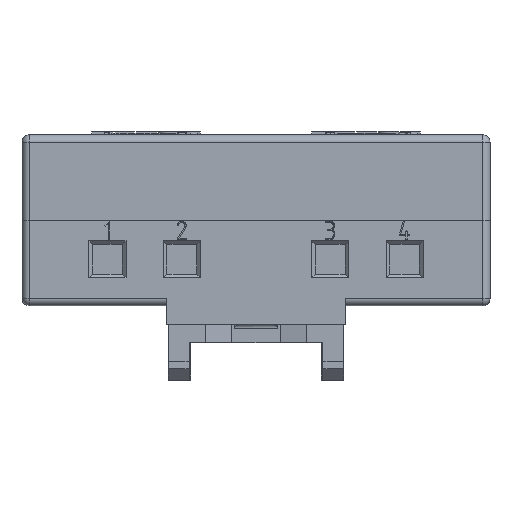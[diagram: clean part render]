
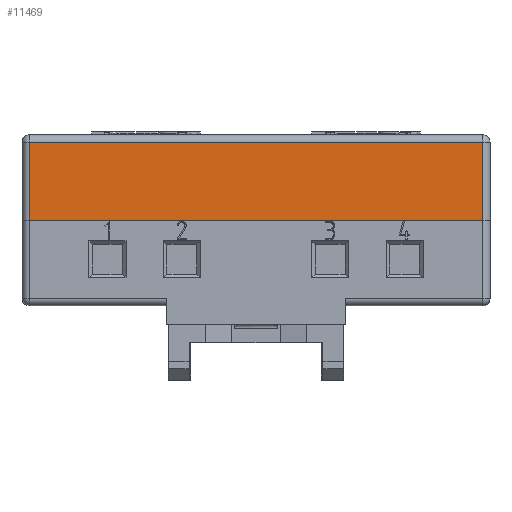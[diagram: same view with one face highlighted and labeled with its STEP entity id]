
A CAD part, front view. The second image highlights one B-rep face of the part: STEP entity #11469.
In plain terms, the highlighted planar face has unit normal (0, -1, 0).
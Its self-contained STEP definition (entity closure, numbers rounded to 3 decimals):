
#62 = AXIS2_PLACEMENT_3D ( 'NONE', #19599, #28891, #25911 ) ;
#1332 = CARTESIAN_POINT ( 'NONE',  ( 62., 0., 10.5 ) ) ;
#1387 = EDGE_CURVE ( 'NONE', #1917, #31599, #2470, .T. ) ;
#1731 = DIRECTION ( 'NONE',  ( 0., 0., -1. ) ) ;
#1917 = VERTEX_POINT ( 'NONE', #20525 ) ;
#2470 = LINE ( 'NONE', #30726, #26576 ) ;
#2684 = VERTEX_POINT ( 'NONE', #4519 ) ;
#2891 = VERTEX_POINT ( 'NONE', #5995 ) ;
#3619 = EDGE_CURVE ( 'NONE', #2684, #2891, #24500, .T. ) ;
#4519 = CARTESIAN_POINT ( 'NONE',  ( 1., 0., 10.5 ) ) ;
#5995 = CARTESIAN_POINT ( 'NONE',  ( 1., 0., 0. ) ) ;
#8491 = LINE ( 'NONE', #32752, #17870 ) ;
#10209 = FACE_OUTER_BOUND ( 'NONE', #35497, .T. ) ;
#10425 = LINE ( 'NONE', #13421, #26173 ) ;
#11310 = CARTESIAN_POINT ( 'NONE',  ( 1., 0., 11.5 ) ) ;
#11469 = ADVANCED_FACE ( 'NONE', ( #10209 ), #22757, .F. ) ;
#13421 = CARTESIAN_POINT ( 'NONE',  ( 63., 0., 0. ) ) ;
#15134 = DIRECTION ( 'NONE',  ( 0., 0., 1. ) ) ;
#15366 = ORIENTED_EDGE ( 'NONE', *, *, #27313, .F. ) ;
#15402 = EDGE_CURVE ( 'NONE', #31599, #2684, #8491, .T. ) ;
#17870 = VECTOR ( 'NONE', #29576, 1000. ) ;
#19599 = CARTESIAN_POINT ( 'NONE',  ( 63., 0., 11.5 ) ) ;
#20525 = CARTESIAN_POINT ( 'NONE',  ( 62., 0., 0. ) ) ;
#22757 = PLANE ( 'NONE',  #62 ) ;
#23095 = ORIENTED_EDGE ( 'NONE', *, *, #1387, .T. ) ;
#24500 = LINE ( 'NONE', #11310, #40188 ) ;
#25911 = DIRECTION ( 'NONE',  ( 0., 0., 1. ) ) ;
#26173 = VECTOR ( 'NONE', #32212, 1000. ) ;
#26576 = VECTOR ( 'NONE', #15134, 1000. ) ;
#27313 = EDGE_CURVE ( 'NONE', #1917, #2891, #10425, .T. ) ;
#27349 = ORIENTED_EDGE ( 'NONE', *, *, #15402, .T. ) ;
#28891 = DIRECTION ( 'NONE',  ( 0., 1., 0. ) ) ;
#29576 = DIRECTION ( 'NONE',  ( -1., 0., 0. ) ) ;
#30559 = ORIENTED_EDGE ( 'NONE', *, *, #3619, .T. ) ;
#30726 = CARTESIAN_POINT ( 'NONE',  ( 62., 0., 11.5 ) ) ;
#31599 = VERTEX_POINT ( 'NONE', #1332 ) ;
#32212 = DIRECTION ( 'NONE',  ( -1., 0., 0. ) ) ;
#32752 = CARTESIAN_POINT ( 'NONE',  ( 63., 0., 10.5 ) ) ;
#35497 = EDGE_LOOP ( 'NONE', ( #27349, #30559, #15366, #23095 ) ) ;
#40188 = VECTOR ( 'NONE', #1731, 1000. ) ;
